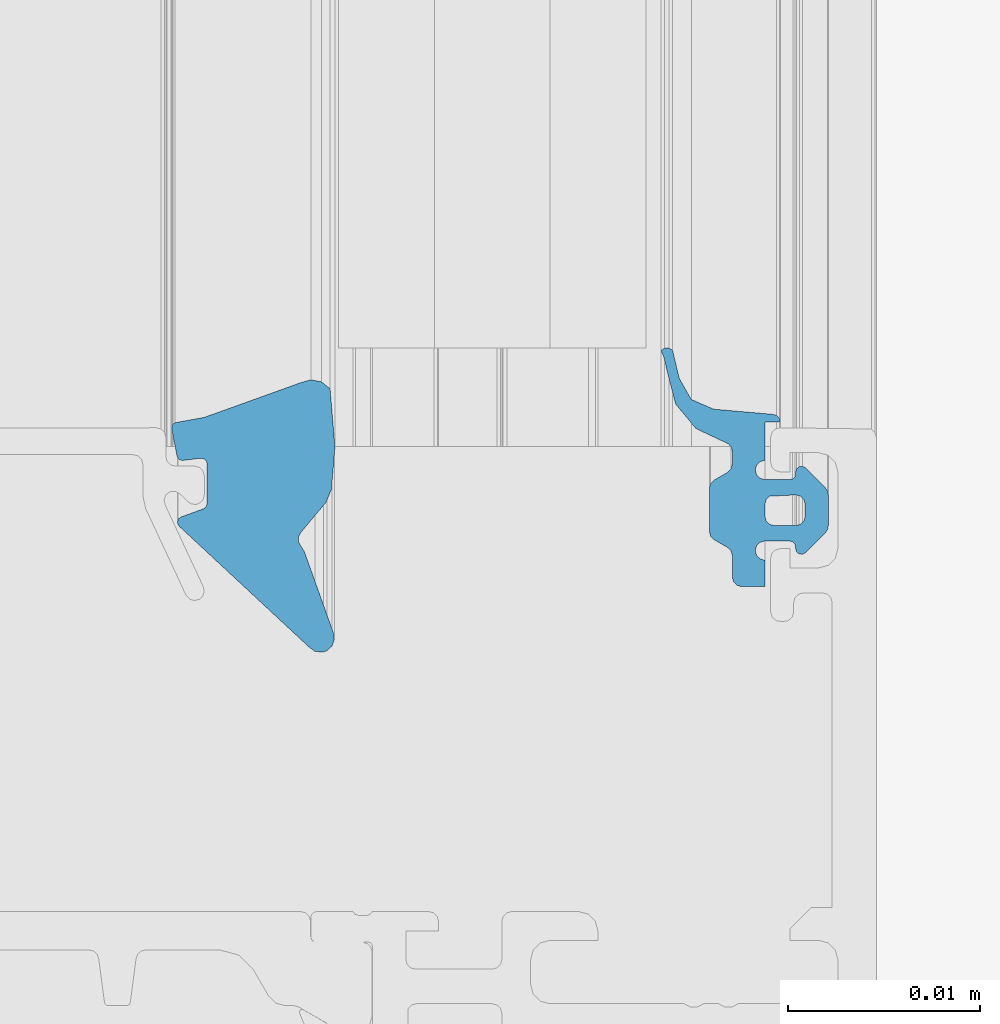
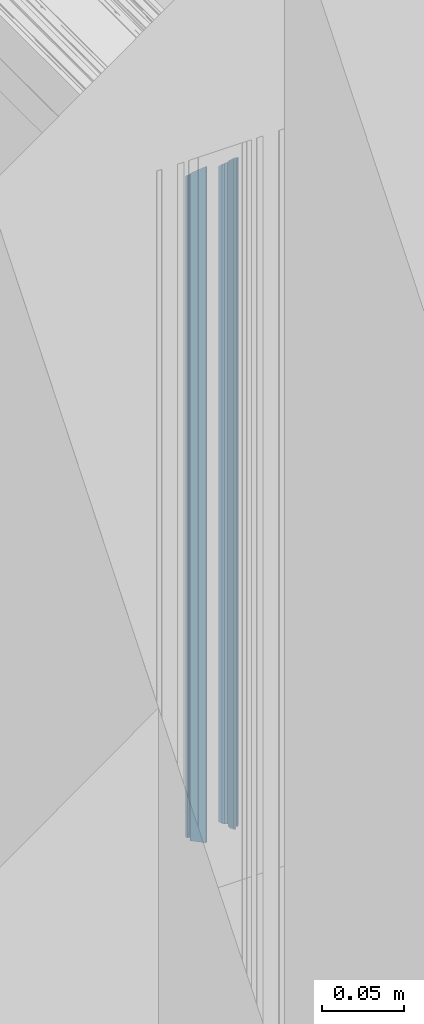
# One storey, part 23 of 62: 1 building element part, 2 elements without a shape of their own.
"""IFC2X3 building model written with IfcOpenShell, lengths in millimetres."""

from ifc_helpers import new_model, entity, si_unit, converted_unit, derived_unit, money_unit, direction, frame, origin_with_axes, place, context, subcontext, project, spatial, faceted_brep, source, transform, mapped, material, type_object, element, aggregate, save


model = new_model("IFC2X3")

# Units and contexts
model_context = context("Model", 3, precision=0.01, world=origin_with_axes(), true_north=direction((0.0, 1.0)))
body_context = subcontext(model_context, "Body", "Model", "MODEL_VIEW")
ifc_project = project(units=[si_unit("LENGTHUNIT", "METRE", prefix="MILLI"), si_unit("AREAUNIT", "SQUARE_METRE"), si_unit("VOLUMEUNIT", "CUBIC_METRE"), converted_unit("PLANEANGLEUNIT", "DEGREE", entity("IfcPlaneAngleMeasure", 0.0174532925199), si_unit("PLANEANGLEUNIT", "RADIAN"), dimensions=[0, 0, 0, 0, 0, 0, 0]), si_unit("SOLIDANGLEUNIT", "STERADIAN"), money_unit("EUR"), converted_unit("TIMEUNIT", "Year", entity("IfcTimeMeasure", 31556926.0), si_unit("TIMEUNIT", "SECOND"), dimensions=[0, 0, 1, 0, 0, 0, 0]), si_unit("MASSUNIT", "GRAM", prefix="KILO"), si_unit("THERMODYNAMICTEMPERATUREUNIT", "DEGREE_CELSIUS"), si_unit("LUMINOUSINTENSITYUNIT", "LUMEN"), si_unit("ENERGYUNIT", "JOULE", prefix="MEGA"), derived_unit("THERMALCONDUCTANCEUNIT", [(si_unit("POWERUNIT", "WATT"), 1), (si_unit("LENGTHUNIT", "METRE"), -1), (si_unit("THERMODYNAMICTEMPERATUREUNIT", "KELVIN"), -1)]), derived_unit("SPECIFICHEATCAPACITYUNIT", [(si_unit("ENERGYUNIT", "JOULE"), 1), (si_unit("MASSUNIT", "GRAM", prefix="KILO"), -1), (si_unit("THERMODYNAMICTEMPERATUREUNIT", "KELVIN"), -1)]), derived_unit("MASSDENSITYUNIT", [(si_unit("MASSUNIT", "GRAM", prefix="KILO"), 1), (si_unit("VOLUMEUNIT", "CUBIC_METRE"), -1)])], contexts=[model_context])

# Site, building, storey
site_placement = place(None, origin_with_axes())
site = spatial("IfcSite", under=ifc_project, at=site_placement, Name="Puškini 31, Narva", CompositionType="ELEMENT")
building_placement = place(site_placement, origin_with_axes())
building = spatial("IfcBuilding", under=site, at=building_placement, Name="Narva Riigigümnaasium", CompositionType="ELEMENT")
storey_placement = place(building_placement, frame((0.0, 0.0, 660.0), z_axis=(0.0, 0.0, 1.0), x_axis=(1.0, 0.0, 0.0)))
storey = spatial("IfcBuildingStorey", under=building, at=storey_placement, Name="2.korrus +0.66", CompositionType="ELEMENT", Elevation=660.0)

# Curtain wall, member, building element part
curtain_wall_type = type_object("IfcCurtainWallType", Name="Curtain Wall Type", PredefinedType="NOTDEFINED")
curtain_wall_placement = place(storey_placement, frame((34855.0128096, 223200.000065, -2.45869393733e-05), z_axis=(0.0, 0.0, 1.0), x_axis=(1.0, 0.0, 0.0)))
curtain_wall = element("IfcCurtainWall", 1, at=curtain_wall_placement, inside=storey, type_object=curtain_wall_type, Name="G-SKLF-50")
member_type = type_object("IfcMemberType", Name="61 x 45", PredefinedType="MULLION")
member_placement = place(curtain_wall_placement, frame((-0.00823391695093, -1920.01202274, 2400.00002459), z_axis=(0.0, 0.0, 1.0), x_axis=(4.28847155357e-06, 0.999999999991, 0.0)))
member = element("IfcMember", 2, at=member_placement, type_object=member_type, Name="G-SKLF-53-raam", ObjectType="MULLION")
aggregate(curtain_wall, [member])
ifc_material = material(Name="Membraan - Veekindel")
shared_shape = source(origin_with_axes(), body_context, "Body", "Brep", [
    faceted_brep([(-61.0413385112, 34.3890442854, 0.0), (-61.0413385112, 34.3890442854, 488.958661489), (-59.5800222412, 34.73794757, 490.419977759), (-59.5800222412, 34.73794757, 0.0), (-61.1536677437, 34.1934467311, 0.0), (-61.1536677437, 34.1934467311, 488.846332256), (-61.1423164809, 33.9681748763, 488.857683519), (-61.0108941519, 33.784859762, 488.989105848), (-60.7381535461, 33.9217644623, 489.261846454), (-59.8409257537, 34.1343131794, 490.159074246), (-58.2346494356, 34.5489145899, 491.765350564), (-56.9567944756, 35.6067920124, 493.043205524), (-56.2495873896, 37.1074172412, 493.75041261), (-56.1542959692, 37.3107917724, 493.845704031), (-55.9795989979, 37.4519392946, 494.020401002), (-55.7607444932, 37.5023809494, 494.239255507), (-55.1093263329, 37.5023809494, 494.890673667), (-54.8593263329, 37.4353936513, 495.140673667), (-54.676313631, 37.2523809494, 495.323686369), (-54.2721684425, 36.5523809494, 495.727831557), (-54.0891557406, 36.3693682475, 495.910844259), (-53.8391557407, 36.3023809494, 496.160844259), (-51.602145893, 36.3023809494, 498.397854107), (-51.352145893, 36.3693682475, 498.647854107), (-51.1691331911, 36.5523809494, 498.830866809), (-50.7649880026, 37.2523809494, 499.235011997), (-50.5819753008, 37.4353936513, 499.418024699), (-50.3319753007, 37.5023809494, 499.668024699), (-49.2206527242, 37.5023809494, 500.779347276), (-48.9706527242, 37.5693682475, 501.029347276), (-48.7876400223, 37.7523809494, 501.212359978), (-48.7206527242, 38.0023809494, 501.279347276), (-48.7206527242, 39.1999494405, 501.279347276), (-50.10004, 39.1999494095, 499.89996), (-50.1670287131, 38.9499497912, 499.832971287), (-50.3500424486, 38.7669381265, 499.649957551), (-50.6000428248, 38.699952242, 499.399957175), (-50.8500424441, 38.7669409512, 499.149957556), (-51.0330541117, 38.9499546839, 498.966945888), (-51.10004, 39.1999550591, 498.89996), (-51.10004, 40.4999366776, 498.89996), (-51.0598476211, 40.6499366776, 498.940152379), (-50.95004, 40.7597442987, 499.04996), (-50.80004, 40.7999366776, 499.19996), (-50.7000457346, 40.7999366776, 499.299954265), (-50.5334025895, 40.8504763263, 499.466597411), (-50.4229059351, 40.9850671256, 499.577094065), (-50.4057850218, 41.1583618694, 499.594214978), (-50.4878083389, 41.3119729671, 499.512191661), (-51.5281601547, 42.3533311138, 498.471839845), (-51.6904310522, 42.4618421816, 498.309568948), (-51.8818844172, 42.4999486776, 498.118115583), (-53.517932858, 42.4999486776, 496.482067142), (-53.7093558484, 42.4618547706, 496.290644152), (-53.8716106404, 42.3533776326, 496.12838936), (-54.9122350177, 41.3120206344, 495.087764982), (-54.9942836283, 41.1584047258, 495.005716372), (-54.9771753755, 40.9850924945, 495.022824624), (-54.866675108, 40.850483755, 495.133324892), (-54.7000173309, 40.7999366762, 495.299982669), (-54.6000210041, 40.7999366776, 495.399978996), (-54.4500210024, 40.7597443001, 495.549978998), (-54.3402133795, 40.6499366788, 495.65978662), (-54.300021, 40.4999366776, 495.699979), (-54.300021, 39.1999606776, 495.699979), (-54.3670082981, 38.9499606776, 495.632991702), (-54.5500210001, 38.7669479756, 495.449979), (-54.8000210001, 38.6999606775, 495.199979), (-55.0500210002, 38.7669479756, 494.949979), (-55.2330337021, 38.9499606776, 494.766966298), (-55.3000210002, 39.1999606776, 494.699979), (-57.3000022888, 39.1999494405, 492.699997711), (-57.3000022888, 39.9999846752, 492.699997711), (-57.5000161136, 39.946391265, 492.499983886), (-57.6464370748, 39.799971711, 492.353562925), (-57.7000324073, 39.5999584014, 492.299967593), (-57.9693613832, 36.5265882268, 492.030638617), (-58.4755028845, 35.3628499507, 491.524497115), (-53.5000340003, 40.7999553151, 496.499966), (-53.4330491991, 41.0499459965, 496.566950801), (-53.2500433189, 41.2329518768, 496.749956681), (-53.0000526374, 41.299936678, 496.999947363), (-52.4000083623, 41.299936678, 497.599991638), (-52.150017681, 41.2329518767, 497.849982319), (-51.9670118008, 41.0499459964, 498.032988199), (-51.9000269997, 40.799955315, 498.099973), (-51.9000269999, 39.6999268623, 498.099973), (-51.9670129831, 39.4499317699, 498.032987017), (-52.1500220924, 39.2669226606, 497.849977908), (-52.4000171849, 39.1999366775, 497.599982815), (-53.0000438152, 39.1999366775, 496.999956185), (-53.2500389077, 39.2669226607, 496.749961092), (-53.433048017, 39.44993177, 496.566951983), (-58.4755028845, 35.3628499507, 0.0), (-57.9693613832, 36.5265882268, 0.0), (-57.7000324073, 39.5999584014, 0.0), (-57.6464370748, 39.799971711, 0.0), (-57.5000161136, 39.946391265, 0.0), (-57.3000022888, 39.9999846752, 0.0), (-57.3000022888, 39.1999494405, 0.0), (-55.3000210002, 39.1999606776, 0.0), (-55.2330337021, 38.9499606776, 0.0), (-55.0500210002, 38.7669479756, 0.0), (-54.8000210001, 38.6999606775, 0.0), (-54.5500210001, 38.7669479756, 0.0), (-54.3670082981, 38.9499606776, 0.0), (-54.300021, 39.1999606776, 0.0), (-54.300021, 40.4999366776, 0.0), (-54.3402133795, 40.6499366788, 0.0), (-54.4500210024, 40.7597443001, 0.0), (-54.6000210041, 40.7999366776, 0.0), (-54.7000173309, 40.7999366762, 0.0), (-54.866675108, 40.850483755, 0.0), (-54.9771753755, 40.9850924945, 0.0), (-54.9942836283, 41.1584047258, 0.0), (-54.9122350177, 41.3120206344, 0.0), (-53.8716106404, 42.3533776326, 0.0), (-53.7093558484, 42.4618547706, 0.0), (-53.517932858, 42.4999486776, 0.0), (-51.8818844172, 42.4999486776, 0.0), (-51.6904310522, 42.4618421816, 0.0), (-51.5281601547, 42.3533311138, 0.0), (-50.4878083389, 41.3119729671, 0.0), (-50.4057850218, 41.1583618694, 0.0), (-50.4229059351, 40.9850671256, 0.0), (-50.5334025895, 40.8504763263, 0.0), (-50.7000457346, 40.7999366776, 0.0), (-50.80004, 40.7999366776, 0.0), (-50.95004, 40.7597442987, 0.0), (-51.0598476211, 40.6499366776, 0.0), (-51.10004, 40.4999366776, 0.0), (-51.10004, 39.1999550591, 0.0), (-51.0330541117, 38.9499546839, 0.0), (-50.8500424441, 38.7669409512, 0.0), (-50.6000428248, 38.699952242, 0.0), (-50.3500424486, 38.7669381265, 0.0), (-50.1670287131, 38.9499497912, 0.0), (-50.10004, 39.1999494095, 0.0), (-48.7206527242, 39.1999494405, 0.0), (-48.7206527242, 38.0023809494, 0.0), (-48.7876400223, 37.7523809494, 0.0), (-48.9706527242, 37.5693682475, 0.0), (-49.2206527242, 37.5023809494, 0.0), (-50.3319753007, 37.5023809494, 0.0), (-50.5819753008, 37.4353936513, 0.0), (-50.7649880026, 37.2523809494, 0.0), (-51.1691331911, 36.5523809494, 0.0), (-51.352145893, 36.3693682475, 0.0), (-51.602145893, 36.3023809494, 0.0), (-53.8391557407, 36.3023809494, 0.0), (-54.0891557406, 36.3693682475, 0.0), (-54.2721684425, 36.5523809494, 0.0), (-54.676313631, 37.2523809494, 0.0), (-54.8593263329, 37.4353936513, 0.0), (-55.1093263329, 37.5023809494, 0.0), (-55.7607444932, 37.5023809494, 0.0), (-55.9795989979, 37.4519392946, 0.0), (-56.1542959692, 37.3107917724, 0.0), (-56.2495873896, 37.1074172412, 0.0), (-56.9567944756, 35.6067920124, 0.0), (-58.2346494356, 34.5489145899, 0.0), (-59.8409257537, 34.1343131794, 0.0), (-60.7381535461, 33.9217644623, 0.0), (-61.0108941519, 33.784859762, 0.0), (-61.1423164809, 33.9681748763, 0.0), (-53.5000340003, 40.7999553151, 0.0), (-53.433048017, 39.44993177, 0.0), (-53.2500389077, 39.2669226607, 0.0), (-53.0000438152, 39.1999366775, 0.0), (-52.4000171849, 39.1999366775, 0.0), (-52.1500220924, 39.2669226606, 0.0), (-51.9670129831, 39.4499317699, 0.0), (-51.9000269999, 39.6999268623, 0.0), (-51.9000269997, 40.799955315, 0.0), (-51.9670118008, 41.0499459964, 0.0), (-52.150017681, 41.2329518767, 0.0), (-52.4000083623, 41.299936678, 0.0), (-53.0000526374, 41.299936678, 0.0), (-53.2500433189, 41.2329518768, 0.0), (-53.4330491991, 41.0499459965, 0.0)], [[[0, 1, 2, 3]], [[4, 5, 1, 0]], [[1, 5, 6, 7, 8, 9, 10, 11, 12, 13, 14, 15, 16, 17, 18, 19, 20, 21, 22, 23, 24, 25, 26, 27, 28, 29, 30, 31, 32, 33, 34, 35, 36, 37, 38, 39, 40, 41, 42, 43, 44, 45, 46, 47, 48, 49, 50, 51, 52, 53, 54, 55, 56, 57, 58, 59, 60, 61, 62, 63, 64, 65, 66, 67, 68, 69, 70, 71, 72, 73, 74, 75, 76, 77, 2], [78, 79, 80, 81, 82, 83, 84, 85, 86, 87, 88, 89, 90, 91, 92]], [[3, 2, 77, 93]], [[0, 3, 93, 94, 95, 96, 97, 98, 99, 100, 101, 102, 103, 104, 105, 106, 107, 108, 109, 110, 111, 112, 113, 114, 115, 116, 117, 118, 119, 120, 121, 122, 123, 124, 125, 126, 127, 128, 129, 130, 131, 132, 133, 134, 135, 136, 137, 138, 139, 140, 141, 142, 143, 144, 145, 146, 147, 148, 149, 150, 151, 152, 153, 154, 155, 156, 157, 158, 159, 160, 161, 162, 163, 164, 4], [165, 166, 167, 168, 169, 170, 171, 172, 173, 174, 175, 176, 177, 178, 179]], [[164, 6, 5, 4]], [[163, 7, 6, 164]], [[162, 8, 7, 163]], [[161, 9, 8, 162]], [[160, 10, 9, 161]], [[159, 11, 10, 160]], [[158, 12, 11, 159]], [[157, 13, 12, 158]], [[156, 14, 13, 157]], [[155, 15, 14, 156]], [[154, 16, 15, 155]], [[153, 17, 16, 154]], [[152, 18, 17, 153]], [[151, 19, 18, 152]], [[150, 20, 19, 151]], [[149, 21, 20, 150]], [[148, 22, 21, 149]], [[147, 23, 22, 148]], [[146, 24, 23, 147]], [[145, 25, 24, 146]], [[144, 26, 25, 145]], [[143, 27, 26, 144]], [[142, 28, 27, 143]], [[141, 29, 28, 142]], [[140, 30, 29, 141]], [[139, 31, 30, 140]], [[138, 32, 31, 139]], [[137, 33, 32, 138]], [[136, 34, 33, 137]], [[135, 35, 34, 136]], [[134, 36, 35, 135]], [[133, 37, 36, 134]], [[132, 38, 37, 133]], [[131, 39, 38, 132]], [[130, 40, 39, 131]], [[129, 41, 40, 130]], [[128, 42, 41, 129]], [[127, 43, 42, 128]], [[126, 44, 43, 127]], [[125, 45, 44, 126]], [[124, 46, 45, 125]], [[123, 47, 46, 124]], [[122, 48, 47, 123]], [[121, 49, 48, 122]], [[120, 50, 49, 121]], [[119, 51, 50, 120]], [[118, 52, 51, 119]], [[117, 53, 52, 118]], [[116, 54, 53, 117]], [[115, 55, 54, 116]], [[114, 56, 55, 115]], [[113, 57, 56, 114]], [[112, 58, 57, 113]], [[111, 59, 58, 112]], [[110, 60, 59, 111]], [[109, 61, 60, 110]], [[108, 62, 61, 109]], [[107, 63, 62, 108]], [[106, 64, 63, 107]], [[105, 65, 64, 106]], [[104, 66, 65, 105]], [[103, 67, 66, 104]], [[102, 68, 67, 103]], [[101, 69, 68, 102]], [[100, 70, 69, 101]], [[99, 71, 70, 100]], [[98, 72, 71, 99]], [[97, 73, 72, 98]], [[96, 74, 73, 97]], [[95, 75, 74, 96]], [[94, 76, 75, 95]], [[93, 77, 76, 94]], [[179, 79, 78, 165]], [[178, 80, 79, 179]], [[177, 81, 80, 178]], [[176, 82, 81, 177]], [[175, 83, 82, 176]], [[174, 84, 83, 175]], [[173, 85, 84, 174]], [[172, 86, 85, 173]], [[171, 87, 86, 172]], [[170, 88, 87, 171]], [[169, 89, 88, 170]], [[168, 90, 89, 169]], [[167, 91, 90, 168]], [[166, 92, 91, 167]], [[165, 78, 92, 166]]]),
    faceted_brep([(-59.0307115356, 16.554149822, 0.0), (-59.0307115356, 16.554149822, 490.969288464), (-55.9926715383, 16.8063498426, 494.007328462), (-55.9926715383, 16.8063498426, 0.0), (-59.3884652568, 16.1092618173, 0.0), (-59.3884652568, 16.1092618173, 490.611534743), (-59.5001582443, 15.5494067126, 490.499841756), (-59.3405112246, 15.0012955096, 490.659488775), (-57.5418652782, 10.0035930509, 492.458134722), (-57.2632233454, 8.46932121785, 492.736776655), (-57.1824204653, 8.36745448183, 492.817579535), (-57.0661058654, 8.3093438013, 492.933894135), (-56.9361285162, 8.30590490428, 493.063871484), (-55.5361285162, 8.57803733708, 494.463871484), (-55.4168250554, 8.62997353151, 494.583174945), (-55.3307332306, 8.72753828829, 494.669266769), (-55.2940485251, 8.85237785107, 494.705951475), (-55.4099827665, 9.81272116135, 494.590017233), (-55.3838261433, 9.9780831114, 494.616173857), (-55.2731258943, 10.1036784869, 494.726874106), (-55.1123574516, 10.1503930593, 494.887642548), (-53.0580290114, 10.1503930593, 496.941970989), (-52.8859560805, 10.0961386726, 497.11404392), (-52.7761212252, 9.95299910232, 497.223878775), (-52.3556584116, 8.79778701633, 497.644341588), (-52.2574645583, 8.66326410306, 497.742535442), (-52.1026310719, 8.60190419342, 497.897368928), (-51.938943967, 8.6326446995, 498.061056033), (-51.8169217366, 8.74599822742, 498.183078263), (-45.6142070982, 15.4144760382, 504.385792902), (-45.3418968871, 15.7688623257, 504.658103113), (-45.3195226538, 16.2152275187, 504.680477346), (-45.3889077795, 16.3899097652, 504.611092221), (-45.6241929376, 16.6482027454, 504.375807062), (-45.950966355, 16.7718696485, 504.049033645), (-46.298307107, 16.7340705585, 503.701692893), (-50.5536994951, 15.2121179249, 499.446300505), (-50.8437237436, 15.0307134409, 499.156276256), (-51.0558924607, 14.9074036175, 498.944107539), (-51.3011765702, 14.8998814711, 498.69882343), (-51.5205025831, 15.0099586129, 498.479497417), (-53.1225200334, 16.3483062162, 496.877479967), (-53.7899070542, 16.6230039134, 496.210092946), (-53.7899070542, 16.6230039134, 0.0), (-53.1225200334, 16.3483062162, 0.0), (-51.5205025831, 15.0099586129, 0.0), (-51.3011765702, 14.8998814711, 0.0), (-51.0558924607, 14.9074036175, 0.0), (-50.8437237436, 15.0307134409, 0.0), (-50.5536994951, 15.2121179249, 0.0), (-46.298307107, 16.7340705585, 0.0), (-45.950966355, 16.7718696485, 0.0), (-45.6241929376, 16.6482027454, 0.0), (-45.3889077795, 16.3899097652, 0.0), (-45.3195226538, 16.2152275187, 0.0), (-45.3418968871, 15.7688623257, 0.0), (-45.6142070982, 15.4144760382, 0.0), (-51.8169217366, 8.74599822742, 0.0), (-51.938943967, 8.6326446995, 0.0), (-52.1026310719, 8.60190419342, 0.0), (-52.2574645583, 8.66326410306, 0.0), (-52.3556584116, 8.79778701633, 0.0), (-52.7761212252, 9.95299910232, 0.0), (-52.8859560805, 10.0961386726, 0.0), (-53.0580290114, 10.1503930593, 0.0), (-55.1123574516, 10.1503930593, 0.0), (-55.2731258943, 10.1036784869, 0.0), (-55.3838261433, 9.9780831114, 0.0), (-55.4099827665, 9.81272116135, 0.0), (-55.2940485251, 8.85237785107, 0.0), (-55.3307332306, 8.72753828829, 0.0), (-55.4168250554, 8.62997353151, 0.0), (-55.5361285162, 8.57803733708, 0.0), (-56.9361285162, 8.30590490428, 0.0), (-57.0661058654, 8.3093438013, 0.0), (-57.1824204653, 8.36745448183, 0.0), (-57.2632233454, 8.46932121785, 0.0), (-57.5418652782, 10.0035930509, 0.0), (-59.3405112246, 15.0012955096, 0.0), (-59.5001582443, 15.5494067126, 0.0)], [[[0, 1, 2, 3]], [[4, 5, 1, 0]], [[1, 5, 6, 7, 8, 9, 10, 11, 12, 13, 14, 15, 16, 17, 18, 19, 20, 21, 22, 23, 24, 25, 26, 27, 28, 29, 30, 31, 32, 33, 34, 35, 36, 37, 38, 39, 40, 41, 42, 2]], [[3, 2, 42, 43]], [[0, 3, 43, 44, 45, 46, 47, 48, 49, 50, 51, 52, 53, 54, 55, 56, 57, 58, 59, 60, 61, 62, 63, 64, 65, 66, 67, 68, 69, 70, 71, 72, 73, 74, 75, 76, 77, 78, 79, 4]], [[79, 6, 5, 4]], [[78, 7, 6, 79]], [[77, 8, 7, 78]], [[76, 9, 8, 77]], [[75, 10, 9, 76]], [[74, 11, 10, 75]], [[73, 12, 11, 74]], [[72, 13, 12, 73]], [[71, 14, 13, 72]], [[70, 15, 14, 71]], [[69, 16, 15, 70]], [[68, 17, 16, 69]], [[67, 18, 17, 68]], [[66, 19, 18, 67]], [[65, 20, 19, 66]], [[64, 21, 20, 65]], [[63, 22, 21, 64]], [[62, 23, 22, 63]], [[61, 24, 23, 62]], [[60, 25, 24, 61]], [[59, 26, 25, 60]], [[58, 27, 26, 59]], [[57, 28, 27, 58]], [[56, 29, 28, 57]], [[55, 30, 29, 56]], [[54, 31, 30, 55]], [[53, 32, 31, 54]], [[52, 33, 32, 53]], [[51, 34, 33, 52]], [[50, 35, 34, 51]], [[49, 36, 35, 50]], [[48, 37, 36, 49]], [[47, 38, 37, 48]], [[46, 39, 38, 47]], [[45, 40, 39, 46]], [[44, 41, 40, 45]], [[43, 42, 41, 44]]]),
])
building_element_part_placement = place(member_placement, origin_with_axes())
building_element_part = element("IfcBuildingElementPart", 3, at=building_element_part_placement, material=ifc_material, Name="Membraan - Veekindel", context=body_context, shape_type="MappedRepresentation", body=[
    mapped(shared_shape, transform((0.0, 0.0, 0.0), x_axis=(-1.0, 0.0, 0.0), y_axis=(0.0, -1.0, 0.0), z_axis=(0.0, 0.0, 1.0))),
])
aggregate(member, [building_element_part])

save(model, "model.ifc")
